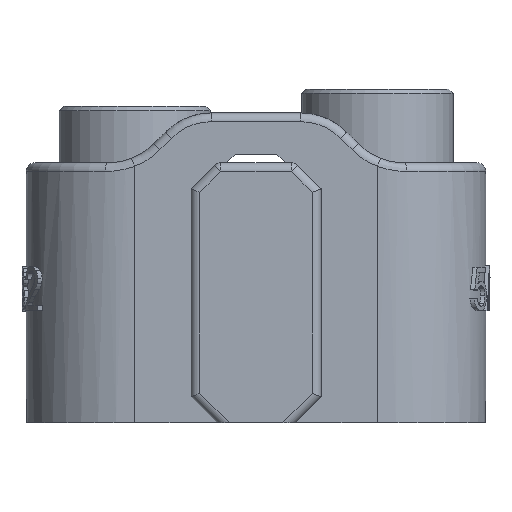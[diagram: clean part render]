
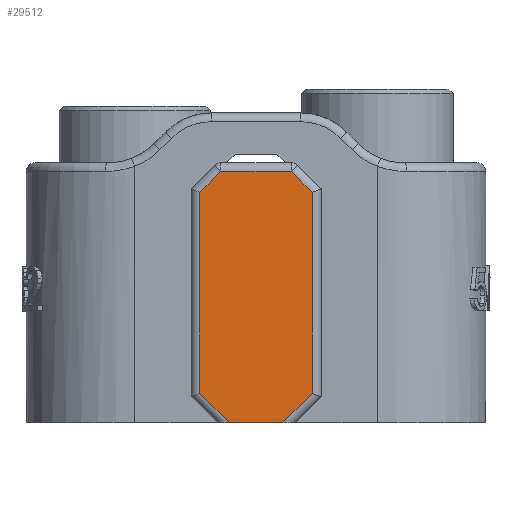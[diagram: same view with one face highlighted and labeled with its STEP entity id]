
A CAD part, left-side view. The second image highlights one B-rep face of the part: STEP entity #29512.
In plain terms, the highlighted planar face has unit normal (-1, 0, 0).
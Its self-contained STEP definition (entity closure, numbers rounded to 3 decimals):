
#3037=PLANE('',#31493);
#3835=FACE_OUTER_BOUND('',#5669,.T.);
#5669=EDGE_LOOP('',(#20430,#20431,#20432,#20433,#20434,#20435,#20436,#20437));
#7517=LINE('',#38036,#9871);
#7518=LINE('',#38041,#9872);
#7522=LINE('',#38058,#9876);
#7527=LINE('',#38076,#9881);
#7533=LINE('',#38105,#9887);
#7585=LINE('',#38273,#9939);
#7586=LINE('',#38275,#9940);
#7621=LINE('',#38342,#9975);
#9871=VECTOR('',#32905,10.);
#9872=VECTOR('',#32910,10.);
#9876=VECTOR('',#32926,10.);
#9881=VECTOR('',#32943,10.);
#9887=VECTOR('',#32975,10.);
#9939=VECTOR('',#33159,10.);
#9940=VECTOR('',#33162,10.);
#9975=VECTOR('',#33221,10.);
#12522=VERTEX_POINT('',#38033);
#12523=VERTEX_POINT('',#38035);
#12524=VERTEX_POINT('',#38039);
#12525=VERTEX_POINT('',#38040);
#12532=VERTEX_POINT('',#38057);
#12539=VERTEX_POINT('',#38074);
#12542=VERTEX_POINT('',#38084);
#12547=VERTEX_POINT('',#38097);
#15398=EDGE_CURVE('',#12522,#12523,#7517,.T.);
#15400=EDGE_CURVE('',#12524,#12525,#7518,.T.);
#15408=EDGE_CURVE('',#12523,#12532,#7522,.T.);
#15417=EDGE_CURVE('',#12539,#12524,#7527,.T.);
#15431=EDGE_CURVE('',#12547,#12539,#7533,.T.);
#15517=EDGE_CURVE('',#12542,#12547,#7585,.T.);
#15518=EDGE_CURVE('',#12532,#12542,#7586,.T.);
#15553=EDGE_CURVE('',#12525,#12522,#7621,.T.);
#20430=ORIENTED_EDGE('',*,*,#15398,.F.);
#20431=ORIENTED_EDGE('',*,*,#15553,.F.);
#20432=ORIENTED_EDGE('',*,*,#15400,.F.);
#20433=ORIENTED_EDGE('',*,*,#15417,.F.);
#20434=ORIENTED_EDGE('',*,*,#15431,.F.);
#20435=ORIENTED_EDGE('',*,*,#15517,.F.);
#20436=ORIENTED_EDGE('',*,*,#15518,.F.);
#20437=ORIENTED_EDGE('',*,*,#15408,.F.);
#29512=ADVANCED_FACE('',(#3835),#3037,.T.);
#31493=AXIS2_PLACEMENT_3D('',#38370,#33246,#33247);
#32905=DIRECTION('',(0.,0.707,0.707));
#32910=DIRECTION('',(0.,0.707,-0.707));
#32926=DIRECTION('',(0.,0.,1.));
#32943=DIRECTION('',(0.,0.,-1.));
#32975=DIRECTION('',(0.,-0.707,-0.707));
#33159=DIRECTION('',(0.,-1.,0.));
#33162=DIRECTION('',(0.,-0.707,0.707));
#33221=DIRECTION('',(0.,1.,0.));
#33246=DIRECTION('center_axis',(-1.,0.,0.));
#33247=DIRECTION('ref_axis',(0.,1.,0.));
#38033=CARTESIAN_POINT('',(57.89,-11.014,-12.688));
#38035=CARTESIAN_POINT('',(57.89,-7.6,-9.273));
#38036=CARTESIAN_POINT('',(57.89,-5.057,-6.73));
#38039=CARTESIAN_POINT('',(57.89,-20.6,-9.273));
#38040=CARTESIAN_POINT('',(57.89,-17.186,-12.688));
#38041=CARTESIAN_POINT('',(57.89,-26.893,-2.98));
#38057=CARTESIAN_POINT('',(57.89,-7.6,13.898));
#38058=CARTESIAN_POINT('',(57.89,-7.6,17.313));
#38074=CARTESIAN_POINT('',(57.89,-20.6,13.898));
#38076=CARTESIAN_POINT('',(57.89,-20.6,17.313));
#38084=CARTESIAN_POINT('',(57.89,-10.014,16.313));
#38097=CARTESIAN_POINT('',(57.89,-18.186,16.313));
#38105=CARTESIAN_POINT('',(57.89,-19.393,15.105));
#38273=CARTESIAN_POINT('',(57.89,-17.85,16.313));
#38275=CARTESIAN_POINT('',(57.89,-12.557,18.855));
#38342=CARTESIAN_POINT('',(57.89,-6.6,-12.688));
#38370=CARTESIAN_POINT('Origin',(57.89,-21.6,17.313));
